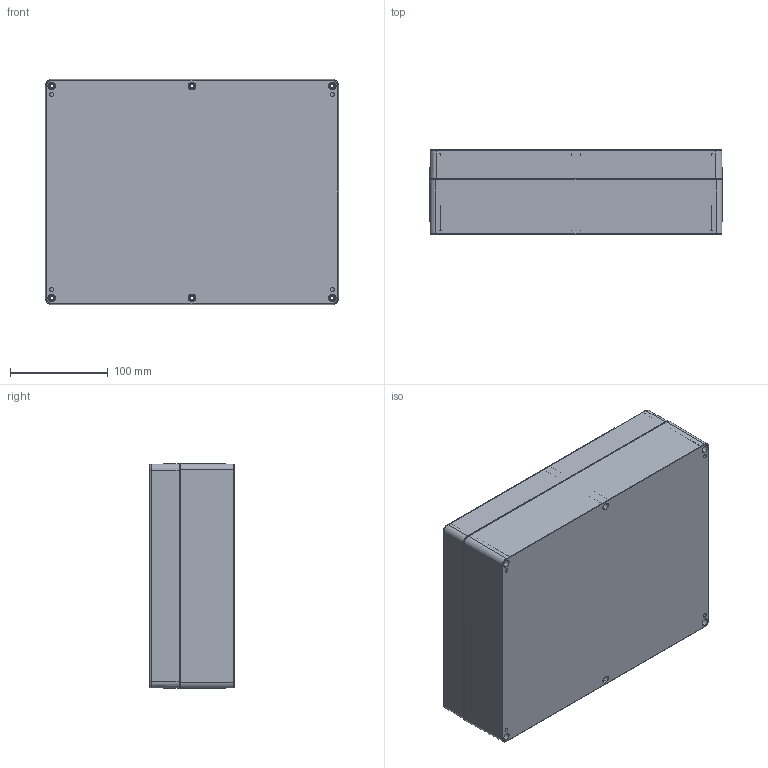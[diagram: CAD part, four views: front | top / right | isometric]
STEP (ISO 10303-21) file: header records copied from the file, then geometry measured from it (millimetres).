
FILE_DESCRIPTION (( 'STEP AP203' ), '1' );
FILE_NAME ('SE-268-0-0.STEP', '2020-01-25T06:27:53', ( '' ), ( '' ), 'SwSTEP 2.0', 'SolidWorks 2020', '' );
FILE_SCHEMA (( 'CONFIG_CONTROL_DESIGN' ));
Length unit declared in the file: millimetre
Products named in the file (4): SE-268-P-2; SE-268-P-1; SE-268_pcb_sample; SE-268-0-0
Assembly tree (3 placements, depth 2):
  SE-268-0-0
    SE-268-P-2
    SE-268-P-1
    SE-268_pcb_sample
Bounding box: 300.57 x 86.7 x 230.97 mm (x, y, z)
Volume: 974577.4 mm3; surface area: 612202.4 mm2
Topology: 9 solids, 9 shells, 1221 faces, 3281 edges, 2138 vertices
Faces by surface type: cylinder 382, bspline 364, cone 253, plane 214, torus 8
Entity records: 42969 total; most frequent: CARTESIAN_POINT 13890, ORIENTED_EDGE 6490, DIRECTION 5353, EDGE_CURVE 3245, VERTEX_POINT 2138, AXIS2_PLACEMENT_3D 2027, EDGE_LOOP 1385, VECTOR 1299
